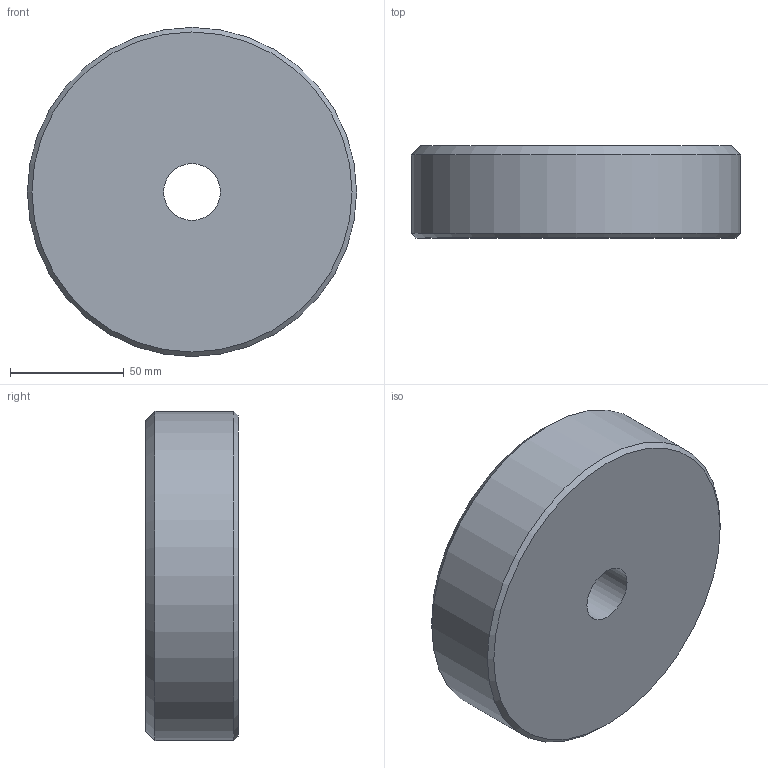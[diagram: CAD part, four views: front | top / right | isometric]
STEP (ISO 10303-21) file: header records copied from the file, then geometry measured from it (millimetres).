
FILE_DESCRIPTION(/* description */ (''),/* implementation_level */ '2;1');
FILE_NAME(/* name */ 'C:\Users\stagistaCAD\Desktop\00001670.stp',/* time_stamp */ '2018-06-15T15:50:09+02:00',/* author */ ('stagistacad'),/* organization */ (''),/* preprocessor_version */ 'ST-DEVELOPER v15.6',/* originating_system */ 'Autodesk Inventor 2015',/* authorisation */ '');
FILE_SCHEMA (('AUTOMOTIVE_DESIGN { 1 0 10303 214 3 1 1 }'));
Length unit declared in the file: millimetre
Products named in the file (1): 00001670
Bounding box: 145 x 40.6 x 145 mm (x, y, z)
Volume: 646018.3 mm3; surface area: 52100.4 mm2
Topology: 1 solids, 1 shells, 6 faces, 10 edges, 6 vertices
Faces by surface type: cylinder 2, cone 2, plane 2
Full cylindrical faces by diameter (mm): 25 x1, 145 x1
Entity records: 152 total; most frequent: DIRECTION 26, CARTESIAN_POINT 19, AXIS2_PLACEMENT_3D 13, EDGE_LOOP 12, ORIENTED_EDGE 12, FACE_BOUND 6, FACE_OUTER_BOUND 6, CIRCLE 6
